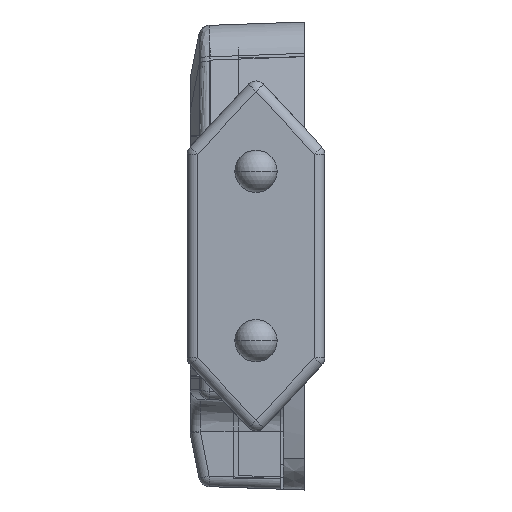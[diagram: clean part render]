
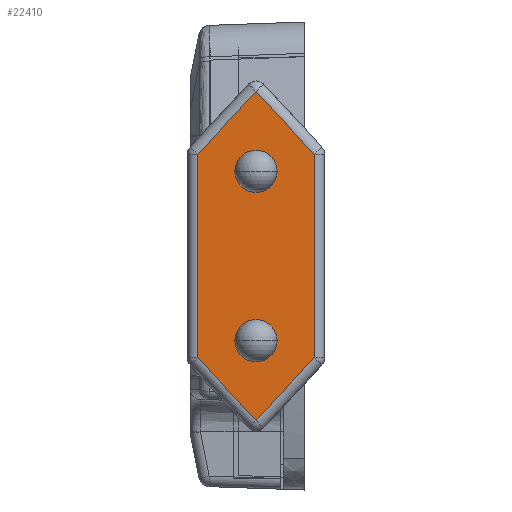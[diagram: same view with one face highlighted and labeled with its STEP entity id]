
A CAD part, left-side view. The second image highlights one B-rep face of the part: STEP entity #22410.
In plain terms, the highlighted planar face has unit normal (-1, 0, 0) as drawn and (0, 0, 1) by its records, which use the part's own axes.
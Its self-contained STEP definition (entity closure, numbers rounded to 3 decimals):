
#133 = DIRECTION ( 'NONE',  ( -1., 0., 0. ) ) ;
#1109 = DIRECTION ( 'NONE',  ( 0., 0., 1. ) ) ;
#1248 = CARTESIAN_POINT ( 'NONE',  ( -1.9, -8., 68.5 ) ) ;
#2157 = CARTESIAN_POINT ( 'NONE',  ( 0.733, -16.32, 68.5 ) ) ;
#2811 = EDGE_CURVE ( 'NONE', #21956, #26234, #41956, .T. ) ;
#3371 = ORIENTED_EDGE ( 'NONE', *, *, #19606, .F. ) ;
#3494 = LINE ( 'NONE', #6735, #14617 ) ;
#3795 = CARTESIAN_POINT ( 'NONE',  ( 5.5, 10., 68.5 ) ) ;
#4101 = CARTESIAN_POINT ( 'NONE',  ( 0., -15.53, 68.5 ) ) ;
#4352 = FACE_BOUND ( 'NONE', #36756, .T. ) ;
#4506 = VECTOR ( 'NONE', #26758, 1000. ) ;
#4542 = ORIENTED_EDGE ( 'NONE', *, *, #34380, .T. ) ;
#6722 = ORIENTED_EDGE ( 'NONE', *, *, #2811, .T. ) ;
#6735 = CARTESIAN_POINT ( 'NONE',  ( -5.5, -10., 68.5 ) ) ;
#7114 = VERTEX_POINT ( 'NONE', #21086 ) ;
#7477 = CARTESIAN_POINT ( 'NONE',  ( 0., -8., 68.5 ) ) ;
#7532 = VECTOR ( 'NONE', #9299, 1000. ) ;
#8002 = DIRECTION ( 'NONE',  ( -0.68, -0.733, 0. ) ) ;
#8510 = AXIS2_PLACEMENT_3D ( 'NONE', #38729, #12482, #12266 ) ;
#9299 = DIRECTION ( 'NONE',  ( 0.68, 0.733, 0. ) ) ;
#9552 = VERTEX_POINT ( 'NONE', #13113 ) ;
#10304 = EDGE_CURVE ( 'NONE', #27419, #19140, #39470, .T. ) ;
#10738 = DIRECTION ( 'NONE',  ( 0., 0., 1. ) ) ;
#11186 = AXIS2_PLACEMENT_3D ( 'NONE', #24699, #1109, #20825 ) ;
#11487 = DIRECTION ( 'NONE',  ( 0.68, -0.733, 0. ) ) ;
#11498 = FACE_BOUND ( 'NONE', #13707, .T. ) ;
#11580 = EDGE_CURVE ( 'NONE', #9552, #37564, #3494, .T. ) ;
#11859 = CIRCLE ( 'NONE', #40984, 1.9 ) ;
#12266 = DIRECTION ( 'NONE',  ( -1., 0., 0. ) ) ;
#12482 = DIRECTION ( 'NONE',  ( 0., 0., 1. ) ) ;
#12530 = VERTEX_POINT ( 'NONE', #29951 ) ;
#13113 = CARTESIAN_POINT ( 'NONE',  ( -5.5, 9.607, 68.5 ) ) ;
#13707 = EDGE_LOOP ( 'NONE', ( #14292, #3371 ) ) ;
#14114 = EDGE_CURVE ( 'NONE', #19140, #27419, #30712, .T. ) ;
#14292 = ORIENTED_EDGE ( 'NONE', *, *, #22076, .F. ) ;
#14617 = VECTOR ( 'NONE', #36883, 1000. ) ;
#14626 = CARTESIAN_POINT ( 'NONE',  ( 0., 8., 68.5 ) ) ;
#16811 = EDGE_CURVE ( 'NONE', #7114, #21956, #40871, .T. ) ;
#18819 = LINE ( 'NONE', #42069, #7532 ) ;
#18926 = DIRECTION ( 'NONE',  ( -0.68, 0.733, 0. ) ) ;
#19140 = VERTEX_POINT ( 'NONE', #37698 ) ;
#19202 = ORIENTED_EDGE ( 'NONE', *, *, #11580, .T. ) ;
#19606 = EDGE_CURVE ( 'NONE', #28912, #12530, #20726, .T. ) ;
#20726 = CIRCLE ( 'NONE', #31086, 1.9 ) ;
#20825 = DIRECTION ( 'NONE',  ( 1., 0., 0. ) ) ;
#20931 = DIRECTION ( 'NONE',  ( 0., 0., 1. ) ) ;
#21086 = CARTESIAN_POINT ( 'NONE',  ( 5.5, -9.607, 68.5 ) ) ;
#21380 = ORIENTED_EDGE ( 'NONE', *, *, #10304, .F. ) ;
#21646 = LINE ( 'NONE', #2157, #30725 ) ;
#21956 = VERTEX_POINT ( 'NONE', #27178 ) ;
#22076 = EDGE_CURVE ( 'NONE', #12530, #28912, #11859, .T. ) ;
#22410 = ADVANCED_FACE ( 'NONE', ( #24072, #11498, #4352 ), #37751, .T. ) ;
#22960 = ORIENTED_EDGE ( 'NONE', *, *, #14114, .F. ) ;
#24072 = FACE_OUTER_BOUND ( 'NONE', #35708, .T. ) ;
#24278 = EDGE_CURVE ( 'NONE', #37564, #42270, #21646, .T. ) ;
#24693 = ORIENTED_EDGE ( 'NONE', *, *, #16811, .T. ) ;
#24699 = CARTESIAN_POINT ( 'NONE',  ( -15.786, 0., 68.5 ) ) ;
#26234 = VERTEX_POINT ( 'NONE', #42698 ) ;
#26309 = CARTESIAN_POINT ( 'NONE',  ( -5.5, -9.607, 68.5 ) ) ;
#26758 = DIRECTION ( 'NONE',  ( 0., 1., 0. ) ) ;
#27178 = CARTESIAN_POINT ( 'NONE',  ( 5.5, 9.607, 68.5 ) ) ;
#27419 = VERTEX_POINT ( 'NONE', #1248 ) ;
#27729 = VECTOR ( 'NONE', #18926, 1000. ) ;
#27868 = DIRECTION ( 'NONE',  ( 1., 0., 0. ) ) ;
#28912 = VERTEX_POINT ( 'NONE', #33811 ) ;
#29093 = AXIS2_PLACEMENT_3D ( 'NONE', #7477, #10738, #133 ) ;
#29951 = CARTESIAN_POINT ( 'NONE',  ( -1.9, 8., 68.5 ) ) ;
#30329 = ORIENTED_EDGE ( 'NONE', *, *, #24278, .T. ) ;
#30712 = CIRCLE ( 'NONE', #8510, 1.9 ) ;
#30725 = VECTOR ( 'NONE', #11487, 1000. ) ;
#31086 = AXIS2_PLACEMENT_3D ( 'NONE', #14626, #20931, #27868 ) ;
#31921 = CARTESIAN_POINT ( 'NONE',  ( 0., 8., 68.5 ) ) ;
#32077 = ORIENTED_EDGE ( 'NONE', *, *, #32894, .T. ) ;
#32390 = CARTESIAN_POINT ( 'NONE',  ( -0.733, 16.32, 68.5 ) ) ;
#32894 = EDGE_CURVE ( 'NONE', #26234, #9552, #34451, .T. ) ;
#33811 = CARTESIAN_POINT ( 'NONE',  ( 1.9, 8., 68.5 ) ) ;
#34380 = EDGE_CURVE ( 'NONE', #42270, #7114, #18819, .T. ) ;
#34451 = LINE ( 'NONE', #41001, #35169 ) ;
#35169 = VECTOR ( 'NONE', #8002, 1000. ) ;
#35708 = EDGE_LOOP ( 'NONE', ( #4542, #24693, #6722, #32077, #19202, #30329 ) ) ;
#36756 = EDGE_LOOP ( 'NONE', ( #21380, #22960 ) ) ;
#36883 = DIRECTION ( 'NONE',  ( 0., -1., 0. ) ) ;
#37564 = VERTEX_POINT ( 'NONE', #26309 ) ;
#37698 = CARTESIAN_POINT ( 'NONE',  ( 1.9, -8., 68.5 ) ) ;
#37751 = PLANE ( 'NONE',  #11186 ) ;
#38219 = DIRECTION ( 'NONE',  ( 1., 0., 0. ) ) ;
#38645 = DIRECTION ( 'NONE',  ( 0., 0., 1. ) ) ;
#38729 = CARTESIAN_POINT ( 'NONE',  ( 0., -8., 68.5 ) ) ;
#39470 = CIRCLE ( 'NONE', #29093, 1.9 ) ;
#40871 = LINE ( 'NONE', #3795, #4506 ) ;
#40984 = AXIS2_PLACEMENT_3D ( 'NONE', #31921, #38645, #38219 ) ;
#41001 = CARTESIAN_POINT ( 'NONE',  ( -5.767, 9.32, 68.5 ) ) ;
#41956 = LINE ( 'NONE', #32390, #27729 ) ;
#42069 = CARTESIAN_POINT ( 'NONE',  ( 5.767, -9.32, 68.5 ) ) ;
#42270 = VERTEX_POINT ( 'NONE', #4101 ) ;
#42698 = CARTESIAN_POINT ( 'NONE',  ( 0., 15.53, 68.5 ) ) ;
